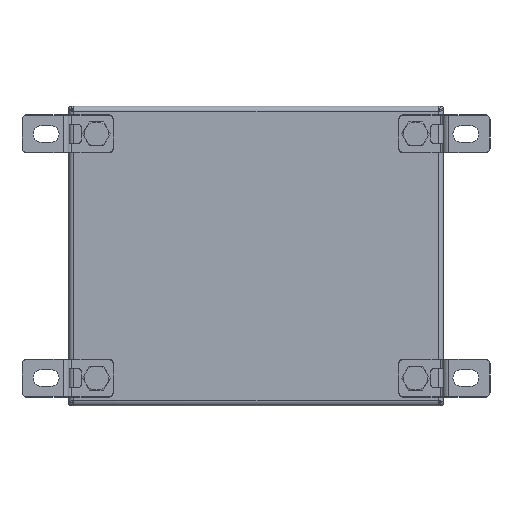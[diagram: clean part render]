
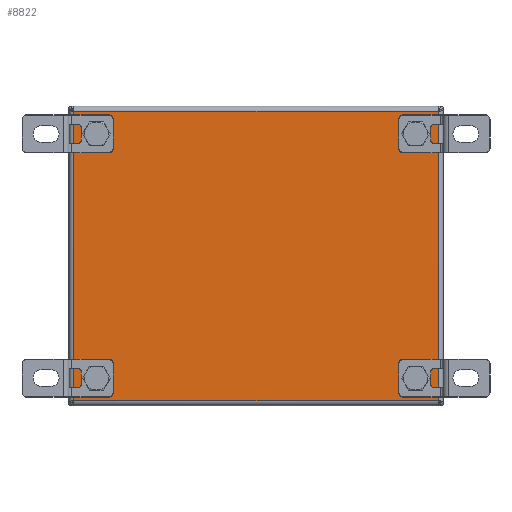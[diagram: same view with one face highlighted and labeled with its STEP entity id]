
A CAD part, front view. The second image highlights one B-rep face of the part: STEP entity #8822.
In plain terms, the highlighted planar face has unit normal (0, -1, 0).
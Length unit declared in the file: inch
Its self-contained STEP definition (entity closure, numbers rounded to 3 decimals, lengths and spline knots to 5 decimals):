
#1403 = CARTESIAN_POINT ( 'NONE',  ( 4.19291, 0., -3.0118 ) ) ;
#1693 = DIRECTION ( 'NONE',  ( 0., 0., 1. ) ) ;
#2044 = CARTESIAN_POINT ( 'NONE',  ( 4.19291, 0., -3.4055 ) ) ;
#2092 = CARTESIAN_POINT ( 'NONE',  ( 4.78646, 0., 3.8022 ) ) ;
#2180 = CARTESIAN_POINT ( 'NONE',  ( -4.78646, 0., 3.8022 ) ) ;
#2350 = DIRECTION ( 'NONE',  ( 0., -1., 0. ) ) ;
#2795 = DIRECTION ( 'NONE',  ( 0., 1., 0. ) ) ;
#3103 = EDGE_CURVE ( 'NONE', #9294, #13879, #12643, .T. ) ;
#3712 = CARTESIAN_POINT ( 'NONE',  ( 4.19291, 0., 3.20865 ) ) ;
#3867 = DIRECTION ( 'NONE',  ( 0., 0., 1. ) ) ;
#3945 = EDGE_CURVE ( 'NONE', #18777, #15173, #34095, .T. ) ;
#4322 = DIRECTION ( 'NONE',  ( 0., 0., -1. ) ) ;
#4903 = CARTESIAN_POINT ( 'NONE',  ( 4.19291, 0., 3.4055 ) ) ;
#5980 = CARTESIAN_POINT ( 'NONE',  ( -4.19291, 0., -3.20865 ) ) ;
#6278 = DIRECTION ( 'NONE',  ( 0., 0., 1. ) ) ;
#6470 = CARTESIAN_POINT ( 'NONE',  ( 4.19291, 0., 3.0118 ) ) ;
#6724 = AXIS2_PLACEMENT_3D ( 'NONE', #33596, #2350, #6278 ) ;
#6857 = FACE_BOUND ( 'NONE', #38051, .T. ) ;
#7132 = CARTESIAN_POINT ( 'NONE',  ( -4.19291, 0., 3.20865 ) ) ;
#7880 = CARTESIAN_POINT ( 'NONE',  ( 4.78646, 0., -3.8022 ) ) ;
#8252 = ORIENTED_EDGE ( 'NONE', *, *, #15970, .F. ) ;
#8616 = AXIS2_PLACEMENT_3D ( 'NONE', #7132, #15373, #3867 ) ;
#8822 = ADVANCED_FACE ( 'NONE', ( #48001, #6857, #47413, #20371, #11133 ), #40558, .F. ) ;
#9294 = VERTEX_POINT ( 'NONE', #31936 ) ;
#9481 = ORIENTED_EDGE ( 'NONE', *, *, #13243, .F. ) ;
#9787 = AXIS2_PLACEMENT_3D ( 'NONE', #44817, #44655, #29235 ) ;
#11040 = CARTESIAN_POINT ( 'NONE',  ( -4.19291, 0., -3.4055 ) ) ;
#11133 = FACE_OUTER_BOUND ( 'NONE', #39677, .T. ) ;
#11188 = DIRECTION ( 'NONE',  ( 0., 0., 1. ) ) ;
#11361 = DIRECTION ( 'NONE',  ( 0., -1., 0. ) ) ;
#11565 = DIRECTION ( 'NONE',  ( 0., -1., 0. ) ) ;
#12020 = VERTEX_POINT ( 'NONE', #19555 ) ;
#12194 = CIRCLE ( 'NONE', #8616, 0.19685 ) ;
#12482 = LINE ( 'NONE', #30311, #17443 ) ;
#12643 = CIRCLE ( 'NONE', #16802, 0.19685 ) ;
#12997 = CIRCLE ( 'NONE', #6724, 0.19685 ) ;
#13243 = EDGE_CURVE ( 'NONE', #44582, #48052, #36574, .T. ) ;
#13879 = VERTEX_POINT ( 'NONE', #35476 ) ;
#14725 = ORIENTED_EDGE ( 'NONE', *, *, #3103, .F. ) ;
#15173 = VERTEX_POINT ( 'NONE', #11040 ) ;
#15324 = ORIENTED_EDGE ( 'NONE', *, *, #42597, .F. ) ;
#15373 = DIRECTION ( 'NONE',  ( 0., -1., 0. ) ) ;
#15527 = DIRECTION ( 'NONE',  ( 0., 0., 1. ) ) ;
#15970 = EDGE_CURVE ( 'NONE', #20289, #18660, #35619, .T. ) ;
#16038 = VECTOR ( 'NONE', #16512, 39.37008 ) ;
#16180 = EDGE_LOOP ( 'NONE', ( #48022, #14725 ) ) ;
#16512 = DIRECTION ( 'NONE',  ( 0., 0., 1. ) ) ;
#16673 = VERTEX_POINT ( 'NONE', #7880 ) ;
#16802 = AXIS2_PLACEMENT_3D ( 'NONE', #47283, #11565, #15527 ) ;
#17443 = VECTOR ( 'NONE', #22060, 39.37008 ) ;
#17505 = DIRECTION ( 'NONE',  ( 0., 0., 1. ) ) ;
#17656 = CARTESIAN_POINT ( 'NONE',  ( 4.19291, 0., 3.20865 ) ) ;
#17724 = DIRECTION ( 'NONE',  ( 0., 0., 1. ) ) ;
#18316 = ORIENTED_EDGE ( 'NONE', *, *, #28790, .F. ) ;
#18602 = EDGE_CURVE ( 'NONE', #15173, #18777, #49534, .T. ) ;
#18660 = VERTEX_POINT ( 'NONE', #2092 ) ;
#18777 = VERTEX_POINT ( 'NONE', #49636 ) ;
#19555 = CARTESIAN_POINT ( 'NONE',  ( -4.78646, 0., -3.8022 ) ) ;
#20289 = VERTEX_POINT ( 'NONE', #2180 ) ;
#20371 = FACE_BOUND ( 'NONE', #47733, .T. ) ;
#20508 = EDGE_LOOP ( 'NONE', ( #18316, #9481 ) ) ;
#21609 = DIRECTION ( 'NONE',  ( 0., -1., 0. ) ) ;
#21702 = CIRCLE ( 'NONE', #49162, 0.19685 ) ;
#22060 = DIRECTION ( 'NONE',  ( -1., 0., 0. ) ) ;
#22125 = CIRCLE ( 'NONE', #27283, 0.19685 ) ;
#22365 = ORIENTED_EDGE ( 'NONE', *, *, #3945, .F. ) ;
#22539 = VERTEX_POINT ( 'NONE', #6470 ) ;
#22547 = CARTESIAN_POINT ( 'NONE',  ( 4.19291, 0., -3.20865 ) ) ;
#22725 = VECTOR ( 'NONE', #23245, 39.37008 ) ;
#23245 = DIRECTION ( 'NONE',  ( 1., 0., 0. ) ) ;
#23439 = LINE ( 'NONE', #28208, #24670 ) ;
#24265 = CARTESIAN_POINT ( 'NONE',  ( -4.78646, 0., -53.1496 ) ) ;
#24670 = VECTOR ( 'NONE', #4322, 39.37008 ) ;
#25243 = DIRECTION ( 'NONE',  ( 0., -1., 0. ) ) ;
#27283 = AXIS2_PLACEMENT_3D ( 'NONE', #3712, #38921, #46637 ) ;
#27734 = LINE ( 'NONE', #24265, #16038 ) ;
#28208 = CARTESIAN_POINT ( 'NONE',  ( 4.78646, 0., 53.1496 ) ) ;
#28790 = EDGE_CURVE ( 'NONE', #48052, #44582, #12997, .T. ) ;
#29090 = CARTESIAN_POINT ( 'NONE',  ( 0., 0., 0. ) ) ;
#29235 = DIRECTION ( 'NONE',  ( 0., 0., 1. ) ) ;
#30311 = CARTESIAN_POINT ( 'NONE',  ( 54.13386, 0., -3.8022 ) ) ;
#31630 = AXIS2_PLACEMENT_3D ( 'NONE', #5980, #25243, #17505 ) ;
#31852 = ORIENTED_EDGE ( 'NONE', *, *, #45663, .F. ) ;
#31936 = CARTESIAN_POINT ( 'NONE',  ( -4.19291, 0., 3.0118 ) ) ;
#33596 = CARTESIAN_POINT ( 'NONE',  ( 4.19291, 0., -3.20865 ) ) ;
#34095 = CIRCLE ( 'NONE', #31630, 0.19685 ) ;
#34815 = EDGE_CURVE ( 'NONE', #13879, #9294, #12194, .T. ) ;
#35476 = CARTESIAN_POINT ( 'NONE',  ( -4.19291, 0., 3.4055 ) ) ;
#35587 = AXIS2_PLACEMENT_3D ( 'NONE', #22547, #11361, #11188 ) ;
#35619 = LINE ( 'NONE', #47263, #22725 ) ;
#36574 = CIRCLE ( 'NONE', #35587, 0.19685 ) ;
#38051 = EDGE_LOOP ( 'NONE', ( #15324, #31852 ) ) ;
#38747 = VERTEX_POINT ( 'NONE', #4903 ) ;
#38921 = DIRECTION ( 'NONE',  ( 0., -1., 0. ) ) ;
#38995 = EDGE_CURVE ( 'NONE', #16673, #12020, #12482, .T. ) ;
#39677 = EDGE_LOOP ( 'NONE', ( #50906, #8252, #48468, #47701 ) ) ;
#40558 = PLANE ( 'NONE',  #46975 ) ;
#42597 = EDGE_CURVE ( 'NONE', #38747, #22539, #22125, .T. ) ;
#44582 = VERTEX_POINT ( 'NONE', #2044 ) ;
#44655 = DIRECTION ( 'NONE',  ( 0., -1., 0. ) ) ;
#44817 = CARTESIAN_POINT ( 'NONE',  ( -4.19291, 0., -3.20865 ) ) ;
#45663 = EDGE_CURVE ( 'NONE', #22539, #38747, #21702, .T. ) ;
#46637 = DIRECTION ( 'NONE',  ( 0., 0., 1. ) ) ;
#46975 = AXIS2_PLACEMENT_3D ( 'NONE', #29090, #2795, #17724 ) ;
#47263 = CARTESIAN_POINT ( 'NONE',  ( -54.13386, 0., 3.8022 ) ) ;
#47283 = CARTESIAN_POINT ( 'NONE',  ( -4.19291, 0., 3.20865 ) ) ;
#47413 = FACE_BOUND ( 'NONE', #20508, .T. ) ;
#47701 = ORIENTED_EDGE ( 'NONE', *, *, #38995, .F. ) ;
#47733 = EDGE_LOOP ( 'NONE', ( #22365, #48266 ) ) ;
#47907 = EDGE_CURVE ( 'NONE', #18660, #16673, #23439, .T. ) ;
#47911 = EDGE_CURVE ( 'NONE', #12020, #20289, #27734, .T. ) ;
#48001 = FACE_BOUND ( 'NONE', #16180, .T. ) ;
#48022 = ORIENTED_EDGE ( 'NONE', *, *, #34815, .F. ) ;
#48052 = VERTEX_POINT ( 'NONE', #1403 ) ;
#48266 = ORIENTED_EDGE ( 'NONE', *, *, #18602, .F. ) ;
#48468 = ORIENTED_EDGE ( 'NONE', *, *, #47911, .F. ) ;
#49162 = AXIS2_PLACEMENT_3D ( 'NONE', #17656, #21609, #1693 ) ;
#49534 = CIRCLE ( 'NONE', #9787, 0.19685 ) ;
#49636 = CARTESIAN_POINT ( 'NONE',  ( -4.19291, 0., -3.0118 ) ) ;
#50906 = ORIENTED_EDGE ( 'NONE', *, *, #47907, .F. ) ;
